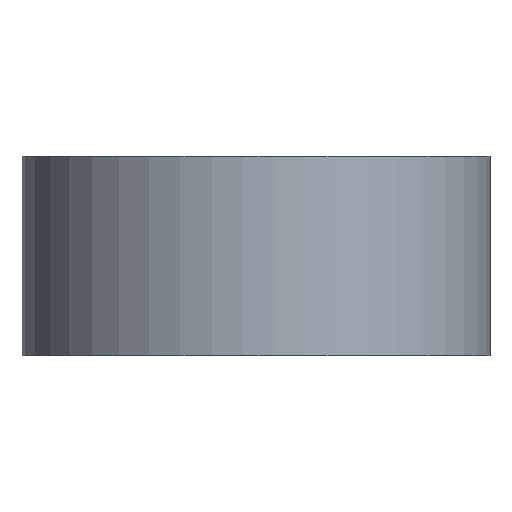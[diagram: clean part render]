
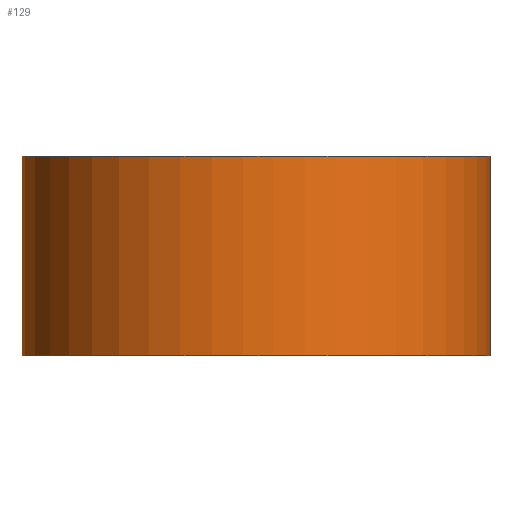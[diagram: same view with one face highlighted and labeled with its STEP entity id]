
A CAD part, front view. The second image highlights one B-rep face of the part: STEP entity #129.
In plain terms, the highlighted cylindrical face has radius 41 mm (diameter 82 mm), a full revolution.
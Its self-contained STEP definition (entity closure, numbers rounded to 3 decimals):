
#11=DIRECTION('',(0.0,0.0,1.0));
#12=DIRECTION('',(1.0,0.0,0.0));
#23=VECTOR('',#11,35.0);
#65=CARTESIAN_POINT('',(-275.0,40.0,100.0));
#72=CARTESIAN_POINT('',(-316.0,40.,100.0));
#73=CARTESIAN_POINT('',(-316.0,81.0,100.0));
#74=CARTESIAN_POINT('',(-275.0,81.0,100.0));
#75=CARTESIAN_POINT('',(-234.,81.0,100.0));
#76=CARTESIAN_POINT('',(-234.0,40.0,100.0));
#77=(BOUNDED_CURVE()B_SPLINE_CURVE(2,(#76,#75,#74,#73,#72),.UNSPECIFIED.,.U.,.U.)B_SPLINE_CURVE_WITH_KNOTS((3,2,3),(0.0,0.5,1.0),.UNSPECIFIED.)CURVE()GEOMETRIC_REPRESENTATION_ITEM()RATIONAL_B_SPLINE_CURVE((1.0,0.707,1.0,0.707,1.0))REPRESENTATION_ITEM(''));
#78=VERTEX_POINT('',#72);
#79=VERTEX_POINT('',#76);
#80=EDGE_CURVE('',#79,#78,#77,.T.);
#82=CARTESIAN_POINT('',(-234.,-1.,100.0));
#83=CARTESIAN_POINT('',(-275.0,-1.0,100.0));
#84=CARTESIAN_POINT('',(-316.0,-1.,100.0));
#85=(BOUNDED_CURVE()B_SPLINE_CURVE(2,(#72,#84,#83,#82,#76),.UNSPECIFIED.,.U.,.U.)B_SPLINE_CURVE_WITH_KNOTS((3,2,3),(0.0,0.5,1.0),.UNSPECIFIED.)CURVE()GEOMETRIC_REPRESENTATION_ITEM()RATIONAL_B_SPLINE_CURVE((1.0,0.707,1.0,0.707,1.0))REPRESENTATION_ITEM(''));
#86=EDGE_CURVE('',#78,#79,#85,.T.);
#98=CARTESIAN_POINT('',(-234.0,40.0,135.0));
#99=CARTESIAN_POINT('',(-234.,-1.,135.0));
#100=CARTESIAN_POINT('',(-275.0,-1.0,135.0));
#101=CARTESIAN_POINT('',(-316.0,-1.,135.0));
#102=CARTESIAN_POINT('',(-316.0,40.,135.0));
#103=(BOUNDED_CURVE()B_SPLINE_CURVE(2,(#102,#101,#100,#99,#98),.UNSPECIFIED.,.U.,.U.)B_SPLINE_CURVE_WITH_KNOTS((3,2,3),(0.0,0.5,1.0),.UNSPECIFIED.)CURVE()GEOMETRIC_REPRESENTATION_ITEM()RATIONAL_B_SPLINE_CURVE((1.0,0.707,1.0,0.707,1.0))REPRESENTATION_ITEM(''));
#104=VERTEX_POINT('',#98);
#105=VERTEX_POINT('',#102);
#106=EDGE_CURVE('',#105,#104,#103,.T.);
#108=CARTESIAN_POINT('',(-316.0,81.0,135.0));
#109=CARTESIAN_POINT('',(-275.0,81.0,135.0));
#110=CARTESIAN_POINT('',(-234.,81.0,135.0));
#111=(BOUNDED_CURVE()B_SPLINE_CURVE(2,(#98,#110,#109,#108,#102),.UNSPECIFIED.,.U.,.U.)B_SPLINE_CURVE_WITH_KNOTS((3,2,3),(0.0,0.5,1.0),.UNSPECIFIED.)CURVE()GEOMETRIC_REPRESENTATION_ITEM()RATIONAL_B_SPLINE_CURVE((1.0,0.707,1.0,0.707,1.0))REPRESENTATION_ITEM(''));
#112=EDGE_CURVE('',#104,#105,#111,.T.);
#117=AXIS2_PLACEMENT_3D('',#65,#11,#12);
#118=CYLINDRICAL_SURFACE('',#117,41.0);
#119=ORIENTED_EDGE('',*,*,#80,.T.);
#120=LINE('',#76,#23);
#121=EDGE_CURVE('',#79,#104,#120,.T.);
#122=ORIENTED_EDGE('',*,*,#121,.F.);
#123=ORIENTED_EDGE('',*,*,#112,.F.);
#124=ORIENTED_EDGE('',*,*,#106,.F.);
#125=ORIENTED_EDGE('',*,*,#121,.T.);
#126=ORIENTED_EDGE('',*,*,#86,.T.);
#127=EDGE_LOOP('',(#126,#125,#124,#123,#122,#119));
#128=FACE_BOUND('',#127,.T.);
#129=ADVANCED_FACE('',(#128),#118,.T.);
